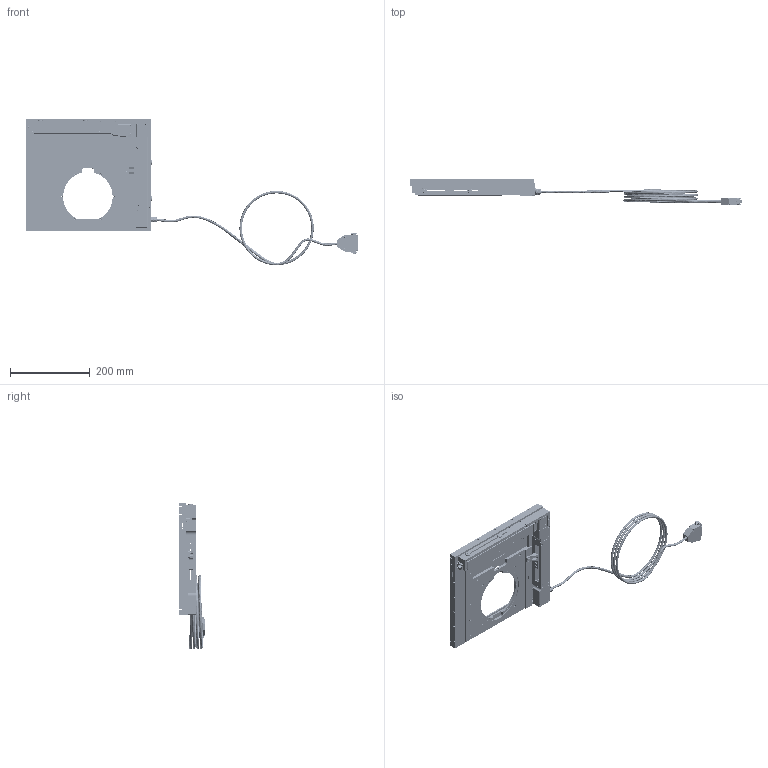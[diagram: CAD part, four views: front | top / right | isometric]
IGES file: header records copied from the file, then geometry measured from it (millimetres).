
Start section: SolidWorks IGES file using analytic representation for surfaces
Global section: file name: C:\1-DATA-FILES-FOR-PROJECTS\2022-PRODUCT-REFERENCE-MODELS\1-STAGE-REFERENCE-MODELS\H101P1F-STAGE-REFERENCE-MODELS\2-H101PF-UK-REFERENCE-PARTS\H101P1F_H101_STAGE-IGES.IGS; native system: SolidWorks 2019; preprocessor: SolidWorks 2019; author: jwilliams; date: 220203.085026; units: inch
Bounding box: 831.22 x 64.71 x 366.71 mm (x, y, z)
Surface area: 620781.7 mm2 (no closed solid volume)
Topology: 0 solids, 0 shells, 6562 faces, 74178 edges, 74023 vertices
Faces by surface type: bspline 4022, revolution 2540
